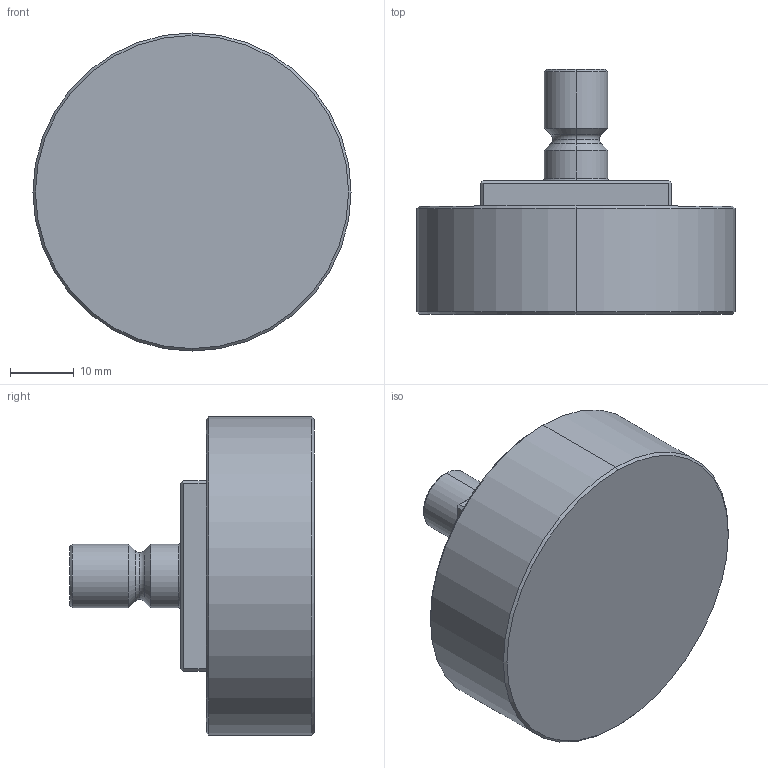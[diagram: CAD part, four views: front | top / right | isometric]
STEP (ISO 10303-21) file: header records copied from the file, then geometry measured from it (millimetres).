
FILE_DESCRIPTION (( 'STEP AP214' ), '1' );
FILE_NAME ('DHP-NTS-SJ309.STEP', '2025-04-16T07:06:23', ( '' ), ( '' ), 'SwSTEP 2.0', 'SolidWorks 2022', '' );
FILE_SCHEMA (( 'AUTOMOTIVE_DESIGN' ));
Length unit declared in the file: millimetre
Products named in the file (1): DHP-NTS-SJ309
Bounding box: 50 x 38.5 x 50 mm (x, y, z)
Volume: 38037.9 mm3; surface area: 7693.5 mm2
Topology: 1 solids, 1 shells, 60 faces, 138 edges, 86 vertices
Faces by surface type: plane 28, cylinder 16, cone 10, torus 6
Entity records: 1724 total; most frequent: DIRECTION 312, CARTESIAN_POINT 285, ORIENTED_EDGE 276, EDGE_CURVE 138, AXIS2_PLACEMENT_3D 113, LINE 86, VERTEX_POINT 86, VECTOR 86
